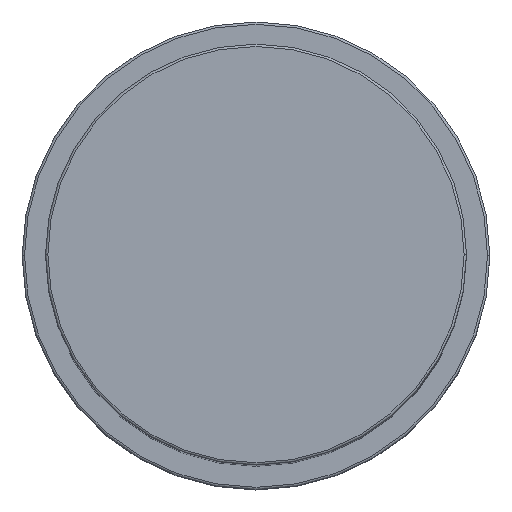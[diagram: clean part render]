
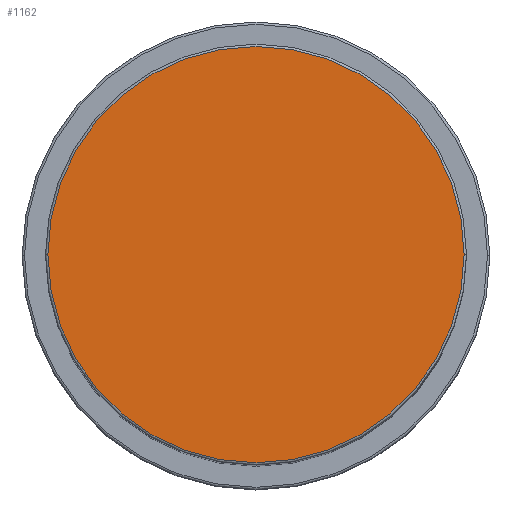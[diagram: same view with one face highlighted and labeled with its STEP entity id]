
A CAD part, top view. The second image highlights one B-rep face of the part: STEP entity #1162.
In plain terms, the highlighted planar face has unit normal (0, 0, 1).
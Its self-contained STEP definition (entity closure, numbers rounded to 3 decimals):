
#21 = DIRECTION ( 'NONE',  ( 1., 0., 0. ) ) ;
#99 = DIRECTION ( 'NONE',  ( 0., 0., 1. ) ) ;
#125 = DIRECTION ( 'NONE',  ( 1., 0., 0. ) ) ;
#242 = CARTESIAN_POINT ( 'NONE',  ( 0., 0., 169. ) ) ;
#258 = PLANE ( 'NONE',  #469 ) ;
#282 = CIRCLE ( 'NONE', #1282, 44.5 ) ;
#287 = EDGE_LOOP ( 'NONE', ( #1464, #951 ) ) ;
#382 = CARTESIAN_POINT ( 'NONE',  ( -44.5, 0., 169. ) ) ;
#469 = AXIS2_PLACEMENT_3D ( 'NONE', #1433, #1548, #21 ) ;
#541 = VERTEX_POINT ( 'NONE', #382 ) ;
#736 = FACE_OUTER_BOUND ( 'NONE', #287, .T. ) ;
#780 = DIRECTION ( 'NONE',  ( 0., 0., 1. ) ) ;
#849 = CARTESIAN_POINT ( 'NONE',  ( 44.5, 0., 169. ) ) ;
#951 = ORIENTED_EDGE ( 'NONE', *, *, #1086, .T. ) ;
#999 = DIRECTION ( 'NONE',  ( 1., 0., 0. ) ) ;
#1013 = VERTEX_POINT ( 'NONE', #849 ) ;
#1015 = AXIS2_PLACEMENT_3D ( 'NONE', #242, #99, #999 ) ;
#1068 = CIRCLE ( 'NONE', #1015, 44.5 ) ;
#1086 = EDGE_CURVE ( 'NONE', #541, #1013, #1068, .T. ) ;
#1162 = ADVANCED_FACE ( 'NONE', ( #736 ), #258, .T. ) ;
#1282 = AXIS2_PLACEMENT_3D ( 'NONE', #1289, #780, #125 ) ;
#1289 = CARTESIAN_POINT ( 'NONE',  ( 0., 0., 169. ) ) ;
#1433 = CARTESIAN_POINT ( 'NONE',  ( 0., 0., 169. ) ) ;
#1464 = ORIENTED_EDGE ( 'NONE', *, *, #1501, .T. ) ;
#1501 = EDGE_CURVE ( 'NONE', #1013, #541, #282, .T. ) ;
#1548 = DIRECTION ( 'NONE',  ( 0., 0., 1. ) ) ;
